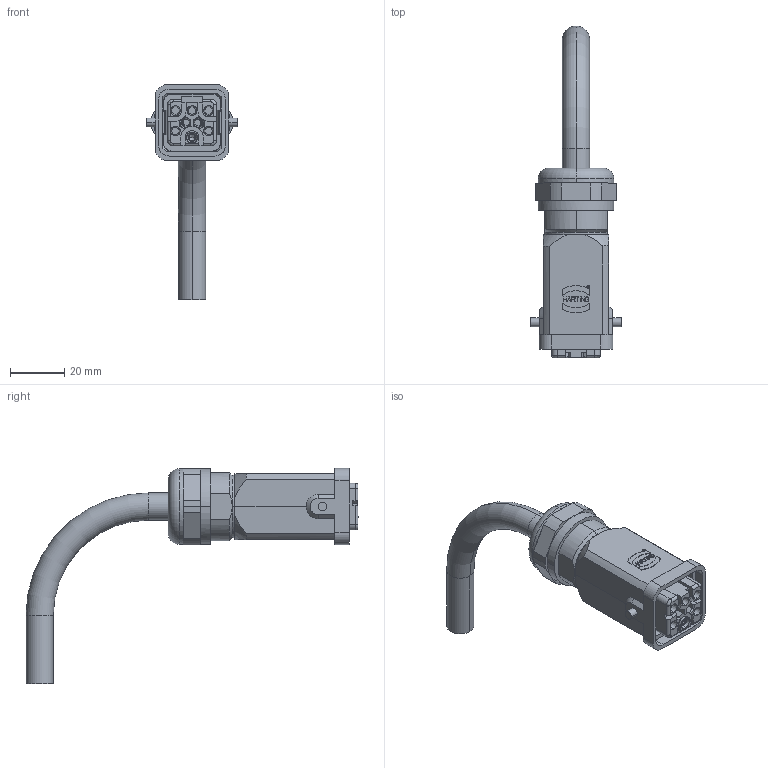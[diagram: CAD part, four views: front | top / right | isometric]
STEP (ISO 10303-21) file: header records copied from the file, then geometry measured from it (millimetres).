
FILE_DESCRIPTION (( 'STEP AP214' ), '1' );
FILE_NAME ('Asyril_HAN 3A 5P 5m POWER CABLE_000.102.889_(option).STEP', '2019-04-01T05:39:29', ( 'Standard' ), ( '' ), 'SwSTEP 2.0', 'SolidWorks 2017', '' );
FILE_SCHEMA (( 'AUTOMOTIVE_DESIGN' ));
Length unit declared in the file: millimetre
Products named in the file (1): Asyril_HAN 3A 5P 5m POWER CABLE_000.102.889_(option)
Bounding box: 33.4 x 121.9 x 79 mm (x, y, z)
Volume: 32140.1 mm3; surface area: 24620.7 mm2
Topology: 3 solids, 5 shells, 1068 faces, 2912 edges, 1866 vertices
Faces by surface type: plane 544, cylinder 339, bspline 95, cone 68, torus 22
Entity records: 48859 total; most frequent: CARTESIAN_POINT 21229, ORIENTED_EDGE 5792, DIRECTION 4205, EDGE_CURVE 2896, VERTEX_POINT 1866, LINE 1545, VECTOR 1545, AXIS2_PLACEMENT_3D 1330
